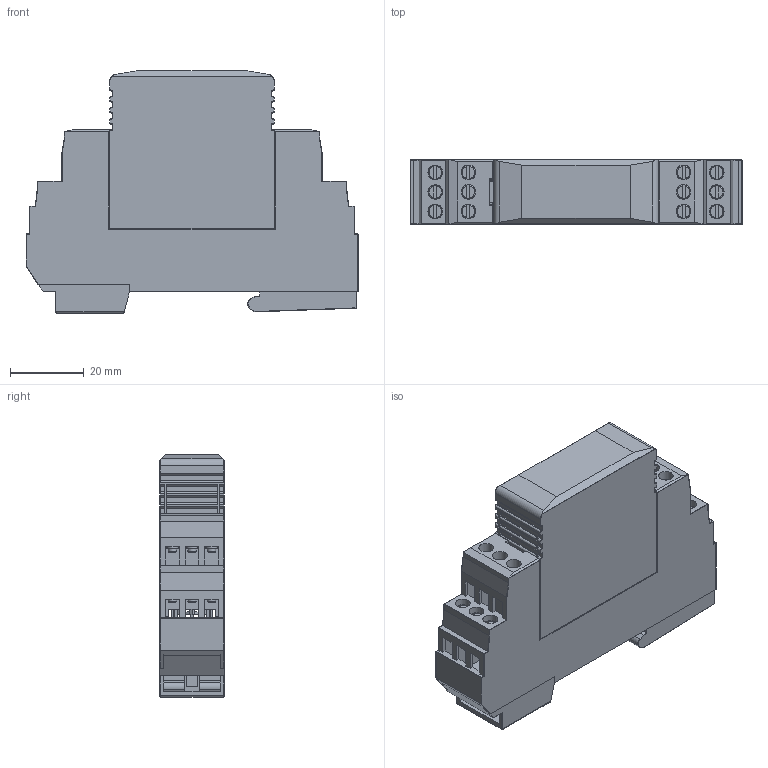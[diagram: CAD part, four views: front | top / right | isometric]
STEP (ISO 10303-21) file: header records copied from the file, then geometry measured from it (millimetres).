
FILE_DESCRIPTION(/* description */ (''),/* implementation_level */ '2;1');
FILE_NAME(/* name */ 'K:\PROJEKTY ROZPRACOVANÉ\MODELY DO KATALOGU\HDT\HDT2.stp',/* time_stamp */ '2019-11-20T11:48:57+01:00',/* author */ ('Jiri Valtr'),/* organization */ (''),/* preprocessor_version */ 'ST-DEVELOPER v18',/* originating_system */ 'Autodesk Inventor 2020',/* authorisation */ '');
FILE_SCHEMA (('AUTOMOTIVE_DESIGN { 1 0 10303 214 3 1 1 }'));
Length unit declared in the file: millimetre
Products named in the file (3): HDT; HDT_1; ŠROUB
Assembly tree (13 placements, depth 2):
  HDT
    HDT_1
    ŠROUB  x12
Bounding box: 90.15 x 17.5 x 65.85 mm (x, y, z)
Volume: 49443.1 mm3; surface area: 32850.3 mm2
Topology: 15 solids, 15 shells, 1185 faces, 3096 edges, 1962 vertices
Faces by surface type: plane 697, cylinder 354, torus 64, cone 36, sphere 28, bspline 6
Full cylindrical faces by diameter (mm): 2.3 x24, 2.6 x6, 3 x12, 3.8 x12, 4 x12, 6 x1
Entity records: 30811 total; most frequent: CARTESIAN_POINT 5588, ORIENTED_EDGE 5242, DIRECTION 5199, EDGE_CURVE 2621, LINE 1993, VECTOR 1993, VERTEX_POINT 1632, AXIS2_PLACEMENT_3D 1603
